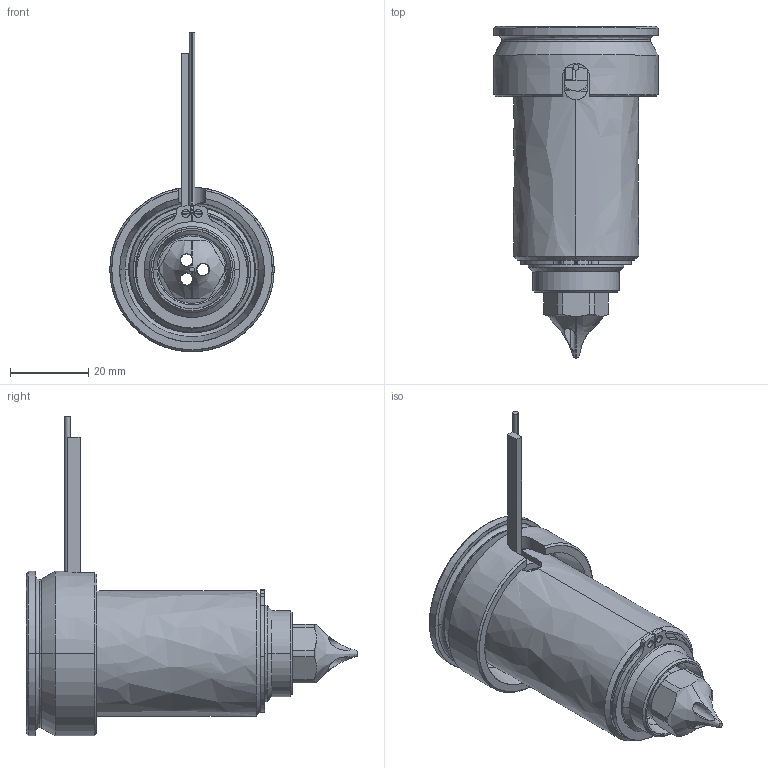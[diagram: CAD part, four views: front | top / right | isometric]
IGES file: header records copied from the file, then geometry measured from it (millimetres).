
Start section: SolidWorks IGES file using analytic representation for surfaces
Global section: file name: C:\Users\luca.EMPAD\Desktop\TEM\UGDL3612-S-A-1 [Øf=1.3 ØC=10].IGS; native system: SolidWorks 2012; preprocessor: SolidWorks 2012; author: luca; date: 120330.160540; units: millimetre
Bounding box: 42 x 84.8 x 81.65 mm (x, y, z)
Surface area: 27110.2 mm2 (no closed solid volume)
Topology: 0 solids, 0 shells, 128 faces, 2264 edges, 2264 vertices
Faces by surface type: revolution 79, bspline 49
